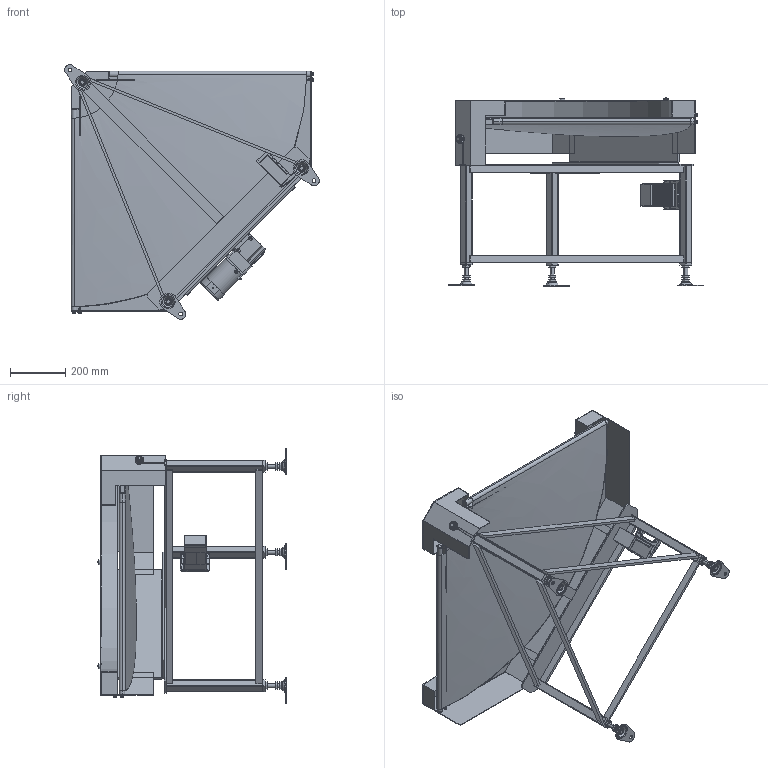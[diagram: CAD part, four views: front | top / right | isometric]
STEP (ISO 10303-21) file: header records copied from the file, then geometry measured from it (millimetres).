
FILE_DESCRIPTION (( 'STEP AP214' ), '1' );
FILE_NAME ('SWD-MBC3-HS-600-L_B.STEP', '2021-08-20T02:49:59', ( '' ), ( '' ), 'SwSTEP 2.0', 'SolidWorks 2017', '' );
FILE_SCHEMA (( 'AUTOMOTIVE_DESIGN' ));
Length unit declared in the file: millimetre
Products named in the file (26): SWD-GBC-S-430-10-脚-600; hexagon thin nut double chamfered_ab_jis_JIS B 1181 Hexagon thin nut - double chamfered A M16 --N; M8x15-MBC3; SWD-GBC-S-220-2-内カバー; VFD001L21A; 安全カバー; SWD-MBC3-HS-600-L_B; SWD-GBC90-僾乕儕+儀儖僩-600-L; KIF-30-M8; M6x10-GBC; CB-S-010; 084 六角ﾎﾞﾙﾄ_三価クロメート_084六角ﾎﾞﾙﾄ(三価クロメート) M6 x 12; AJ-020_呼び100; SWD-GBC-S-330-5-外カバー-600; 084 六角ﾎﾞﾙﾄ_三価クロメート_084六角ﾎﾞﾙﾄ(三価クロメート) M8 x 35; モータ-MBC3; 084 ばね座金 JIS B1251 一般用(2号)_三価白_JIS B 1251 No.2 6 三価白; 084 平座金 JIS B 1256 並形_三価白_JIS B 1256 平座金(並)  6 三価白; モータ_90GEW(34); AJ-020; スピコンインバータ_L; 購入品-寸切りボルトM16x1000_L110; cross recessed binding head screw_1_jis_JIS B 1111 Binding head screw M2 x 4 --4N; 脱落防止ネジ-M5x12; ギアヘッド_5GERH(0); SWD-MBC3-90HS-S-070-4-原動ベース-500,600
Assembly tree (38 placements, depth 3):
  SWD-MBC3-HS-600-L_B
    SWD-GBC-S-220-2-内カバー
    SWD-GBC90-僾乕儕+儀儖僩-600-L
    SWD-GBC-S-330-5-外カバー-600
    SWD-GBC-S-430-10-脚-600
    AJ-020_呼び100  x3
      AJ-020
      購入品-寸切りボルトM16x1000_L110
      hexagon thin nut double chamfered_ab_jis_JIS B 1181 Hexagon thin nut - double chamfered A M16 --N
    KIF-30-M8
    SWD-MBC3-90HS-S-070-4-原動ベース-500,600
    084 六角ﾎﾞﾙﾄ_三価クロメート_084六角ﾎﾞﾙﾄ(三価クロメート) M8 x 35
    M6x10-GBC  x4
      084 六角ﾎﾞﾙﾄ_三価クロメート_084六角ﾎﾞﾙﾄ(三価クロメート) M6 x 12
      084 ばね座金 JIS B1251 一般用(2号)_三価白_JIS B 1251 No.2 6 三価白
      084 平座金 JIS B 1256 並形_三価白_JIS B 1256 平座金(並)  6 三価白
    脱落防止ネジ-M5x12  x2
    スピコンインバータ_L
      CB-S-010
      VFD001L21A
    モータ-MBC3
      モータ_90GEW(34)
      ギアヘッド_5GERH(0)
      安全カバー
      cross recessed binding head screw_1_jis_JIS B 1111 Binding head screw M2 x 4 --4N  x2
    M8x15-MBC3  x4
Bounding box: 917.51 x 677.92 x 917.51 mm (x, y, z)
Volume: 8722317.1 mm3; surface area: 5803128.5 mm2
Topology: 65 solids, 65 shells, 2581 faces, 6383 edges, 4004 vertices
Faces by surface type: plane 1060, cylinder 1035, cone 312, bspline 102, torus 58, sphere 14
Entity records: 64491 total; most frequent: CARTESIAN_POINT 17507, DIRECTION 9078, ORIENTED_EDGE 8690, EDGE_CURVE 4345, AXIS2_PLACEMENT_3D 3368, VERTEX_POINT 2768, LINE 2342, VECTOR 2342
